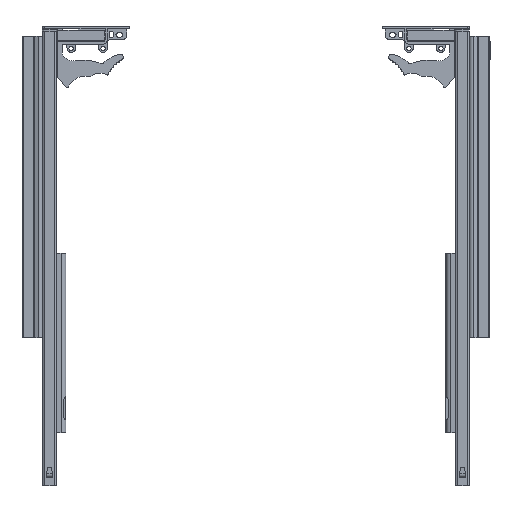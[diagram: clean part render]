
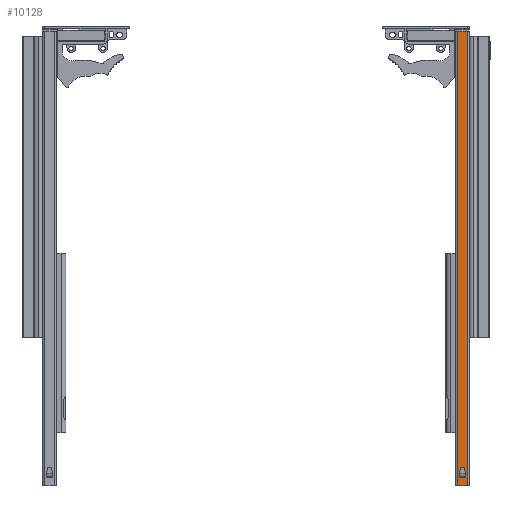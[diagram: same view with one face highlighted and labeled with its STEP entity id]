
A CAD part, front view. The second image highlights one B-rep face of the part: STEP entity #10128.
In plain terms, the highlighted planar face has unit normal (0, -1, 0).
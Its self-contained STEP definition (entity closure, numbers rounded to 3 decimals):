
#221=FACE_BOUND('',#1385,.T.);
#715=FACE_OUTER_BOUND('',#1384,.T.);
#1384=EDGE_LOOP('',(#7781,#7782,#7783,#7784));
#1385=EDGE_LOOP('',(#7785,#7786,#7787,#7788));
#2131=LINE('',#15694,#3123);
#2135=LINE('',#15701,#3127);
#2138=LINE('',#15733,#3130);
#2140=LINE('',#15739,#3132);
#2171=LINE('',#15826,#3163);
#2172=LINE('',#15829,#3164);
#2173=LINE('',#15831,#3165);
#2174=LINE('',#15832,#3166);
#3123=VECTOR('',#12689,10.);
#3127=VECTOR('',#12695,10.);
#3130=VECTOR('',#12700,10.);
#3132=VECTOR('',#12710,10.);
#3163=VECTOR('',#12793,10.);
#3164=VECTOR('',#12796,10.);
#3165=VECTOR('',#12797,10.);
#3166=VECTOR('',#12798,10.);
#4534=VERTEX_POINT('',#15691);
#4535=VERTEX_POINT('',#15693);
#4537=VERTEX_POINT('',#15699);
#4538=VERTEX_POINT('',#15731);
#4567=VERTEX_POINT('',#15822);
#4568=VERTEX_POINT('',#15824);
#4569=VERTEX_POINT('',#15828);
#4570=VERTEX_POINT('',#15830);
#5672=EDGE_CURVE('',#4535,#4534,#2131,.T.);
#5676=EDGE_CURVE('',#4534,#4537,#2135,.T.);
#5680=EDGE_CURVE('',#4537,#4538,#2138,.T.);
#5682=EDGE_CURVE('',#4538,#4535,#2140,.T.);
#5725=EDGE_CURVE('',#4567,#4568,#2171,.T.);
#5726=EDGE_CURVE('',#4567,#4569,#2172,.T.);
#5727=EDGE_CURVE('',#4570,#4568,#2173,.T.);
#5728=EDGE_CURVE('',#4569,#4570,#2174,.T.);
#7781=ORIENTED_EDGE('',*,*,#5726,.F.);
#7782=ORIENTED_EDGE('',*,*,#5725,.T.);
#7783=ORIENTED_EDGE('',*,*,#5727,.F.);
#7784=ORIENTED_EDGE('',*,*,#5728,.F.);
#7785=ORIENTED_EDGE('',*,*,#5672,.T.);
#7786=ORIENTED_EDGE('',*,*,#5676,.T.);
#7787=ORIENTED_EDGE('',*,*,#5680,.T.);
#7788=ORIENTED_EDGE('',*,*,#5682,.T.);
#9428=PLANE('',#10919);
#10128=ADVANCED_FACE('',(#715,#221),#9428,.T.);
#10919=AXIS2_PLACEMENT_3D('',#15827,#12794,#12795);
#12689=DIRECTION('',(0.,0.,-1.));
#12695=DIRECTION('',(-1.,0.,0.));
#12700=DIRECTION('',(0.,0.,1.));
#12710=DIRECTION('',(1.,0.,0.));
#12793=DIRECTION('',(0.,0.,-1.));
#12794=DIRECTION('center_axis',(0.,-1.,0.));
#12795=DIRECTION('ref_axis',(-1.,0.,0.));
#12796=DIRECTION('',(1.,0.,0.));
#12797=DIRECTION('',(-1.,0.,0.));
#12798=DIRECTION('',(0.,0.,-1.));
#15691=CARTESIAN_POINT('',(30.652,8.,-338.597));
#15693=CARTESIAN_POINT('',(30.652,8.,-337.097));
#15694=CARTESIAN_POINT('',(30.652,8.,-114.597));
#15699=CARTESIAN_POINT('',(24.034,8.,-338.597));
#15701=CARTESIAN_POINT('',(29.843,8.,-338.597));
#15731=CARTESIAN_POINT('',(24.034,8.,-337.097));
#15733=CARTESIAN_POINT('',(24.034,8.,-114.597));
#15739=CARTESIAN_POINT('',(29.843,8.,-337.097));
#15822=CARTESIAN_POINT('',(22.343,8.,107.903));
#15824=CARTESIAN_POINT('',(22.343,8.,-347.097));
#15826=CARTESIAN_POINT('',(22.343,8.,107.903));
#15827=CARTESIAN_POINT('Origin',(32.343,8.,107.903));
#15828=CARTESIAN_POINT('',(32.343,8.,107.903));
#15829=CARTESIAN_POINT('',(22.343,8.,107.903));
#15830=CARTESIAN_POINT('',(32.343,8.,-347.097));
#15831=CARTESIAN_POINT('',(22.343,8.,-347.097));
#15832=CARTESIAN_POINT('',(32.343,8.,107.903));
